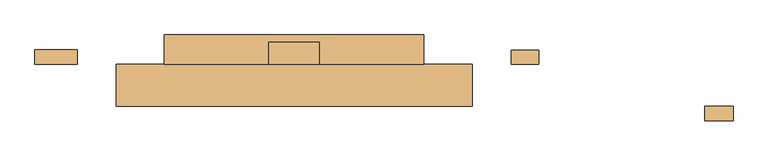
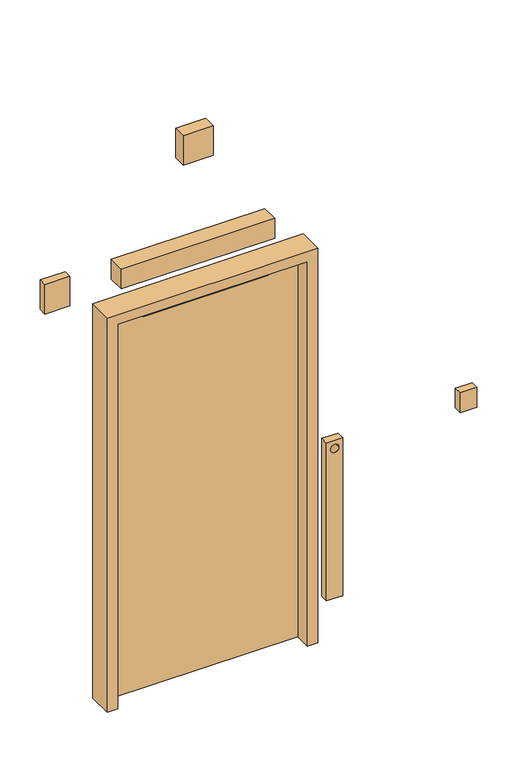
"""IFC4 building model written with IfcOpenShell, lengths in millimetres: door geometry, LOC_Enkeldörr : LOC_Enkeldörr."""

from ifc_helpers import new_model, si_unit, point, frame, frame_2d, origin, origin_with_axes, place, context, project, spatial, polyline, circle_curve, trimmed, segment, composite_curve, outline, extrude, source, transform, mapped, element, save


def door_21350628(model_context):
    return source(origin(), model_context, "Body", "SweptSolid", [
        extrude(outline(polyline([(300.0, -3.9461432), (-300.0, -3.9461432), (-300.0, 20.0), (300.0, 20.0), (300.0, -3.9461432)])), frame((0.0, 0.0, 1900.0), z_axis=(0.0, 0.0, 1.0), x_axis=(1.0, 0.0, 0.0)), (0.0, 0.0, 1.0), 30.0),
        extrude(outline(polyline([(300.0, 60.0), (-300.0, 60.0), (-300.0, 84.7279155), (300.0, 84.7279155), (300.0, 60.0)])), frame((0.0, 0.0, 1900.0), z_axis=(0.0, 0.0, 1.0), x_axis=(1.0, 0.0, 0.0)), (0.0, 0.0, 1.0), 30.0),
        extrude(outline(polyline([(455.0, 60.0), (455.0, 20.0), (-455.0, 20.0), (-455.0, 60.0), (455.0, 60.0)])), origin_with_axes(), (0.0, 0.0, 1.0), 1950.0),
        extrude(outline(polyline([(71.850514, 60.0), (-71.850514, 60.0), (-71.850514, 122.5679407), (71.850514, 122.5679407), (71.850514, 60.0)])), frame((0.0, 0.0, 2550.0), z_axis=(0.0, 0.0, 1.0), x_axis=(1.0, 0.0, 0.0)), (0.0, 0.0, 1.0), 150.0),
        extrude(outline(polyline([(-615.0, 60.0), (-735.0, 60.0), (-735.0, 100.0), (-615.0, 100.0), (-615.0, 60.0)])), frame((0.0, 0.0, 2026.8339397), z_axis=(0.0, 0.0, 1.0), x_axis=(1.0, 0.0, 0.0)), (0.0, 0.0, 1.0), 150.0),
        extrude(outline(polyline([(1245.0, -100.0), (1165.0, -100.0), (1165.0, -60.0), (1245.0, -60.0), (1245.0, -100.0)])), frame((0.0, 0.0, 960.0040929), z_axis=(0.0, 0.0, 1.0), x_axis=(1.0, 0.0, 0.0)), (0.0, 0.0, 1.0), 100.0),
        extrude(outline(polyline([(367.845119, 60.0), (-367.845119, 60.0), (-367.845119, 142.679811), (367.845119, 142.679811), (367.845119, 60.0)])), frame((0.0, 0.0, 2026.8339397), z_axis=(0.0, 0.0, 1.0), x_axis=(1.0, 0.0, 0.0)), (0.0, 0.0, 1.0), 100.0),
        extrude(outline(polyline([(900.0, 615.5145815), (100.0, 615.5145815), (100.0, 694.4854185), (900.0, 694.4854185), (900.0, 615.5145815)]), holes=[composite_curve([segment(trimmed(circle_curve(frame_2d((860.0, 655.0)), 20.0), [point((860.0, 635.0))], [point((860.0, 675.0))], True, "CARTESIAN"), True, "CONTINUOUS"), segment(trimmed(circle_curve(frame_2d((860.0, 655.0)), 20.0), [point((860.0, 675.0))], [point((860.0, 635.0))], True, "CARTESIAN"), True, "CONTINUOUS")], self_intersect=False)]), frame((0.0, 60.0, 0.0), z_axis=(0.0, 1.0, 0.0), x_axis=(0.0, 0.0, 1.0)), (0.0, 0.0, 1.0), 39.7931161),
        extrude(outline(polyline([(2000.0, 505.0), (2000.0, -505.0), (0.0, -505.0), (0.0, -455.0), (1950.0, -455.0), (1950.0, 455.0), (0.0, 455.0), (0.0, 505.0), (2000.0, 505.0)])), frame((0.0, -60.0, 0.0), z_axis=(0.0, 1.0, 0.0), x_axis=(0.0, 0.0, 1.0)), (0.0, 0.0, 1.0), 120.0),
    ])


if __name__ == "__main__":
    model = new_model("IFC4")
    model_context = context("Model", 3, world=origin())
    ifc_project = project(units=[si_unit("LENGTHUNIT", "METRE", prefix="MILLI")], contexts=[model_context])
    site = spatial("IfcSite", under=ifc_project)
    building = spatial("IfcBuilding", under=site)
    placement = place(None, origin())
    door_shape = door_21350628(model_context)
    element("IfcDoor", 1, ObjectType="LOC_Enkeldörr : LOC_Enkeldörr", at=placement, inside=building, context=model_context, shape_type="MappedRepresentation", body=[
        mapped(door_shape, transform((0.0, 0.0, 0.0), x_axis=(1.0, 0.0, 0.0), y_axis=(0.0, 1.0, 0.0), z_axis=(0.0, 0.0, 1.0))),
    ])
    save(model, "model.ifc")
